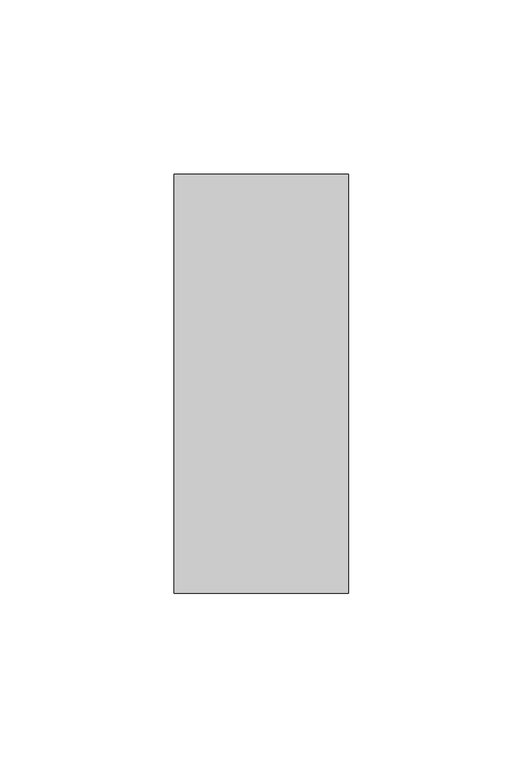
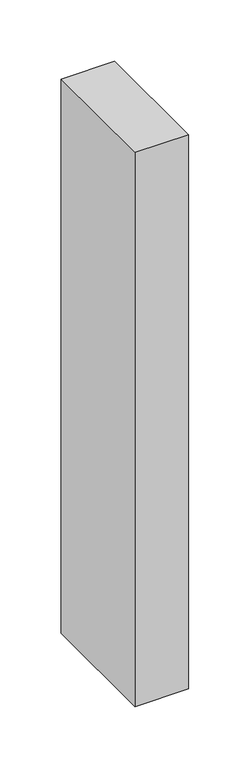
"""IFC4 building model written with IfcOpenShell, lengths in millimetres: member geometry, Прямоугольный импост : 50х120 мм."""

from ifc_helpers import new_model, si_unit, frame, origin, place, context, project, spatial, polyline, outline, extrude, source, transform, mapped, element, save


def member_659f706c(model_context):
    return source(origin(), model_context, "Body", "SweptSolid", [
        extrude(outline(polyline([(0.0, 60.0), (0.0, -60.0), (-50.0, -60.0), (-50.0, 60.0), (0.0, 60.0)])), frame((0.0, 0.0, -550.0), z_axis=(0.0, 0.0, 1.0), x_axis=(1.0, 0.0, 0.0)), (0.0, 0.0, 1.0), 550.0),
    ])


if __name__ == "__main__":
    model = new_model("IFC4")
    model_context = context("Model", 3, world=origin())
    ifc_project = project(units=[si_unit("LENGTHUNIT", "METRE", prefix="MILLI")], contexts=[model_context])
    site = spatial("IfcSite", under=ifc_project)
    building = spatial("IfcBuilding", under=site)
    placement = place(None, origin())
    member_shape = member_659f706c(model_context)
    element("IfcMember", 1, ObjectType="Прямоугольный импост : 50х120 мм", at=placement, inside=building, context=model_context, shape_type="MappedRepresentation", body=[
        mapped(member_shape, transform((0.0, 0.0, 0.0), x_axis=(1.0, 0.0, 0.0), y_axis=(0.0, 1.0, 0.0), z_axis=(0.0, 0.0, 1.0))),
    ])
    save(model, "model.ifc")
